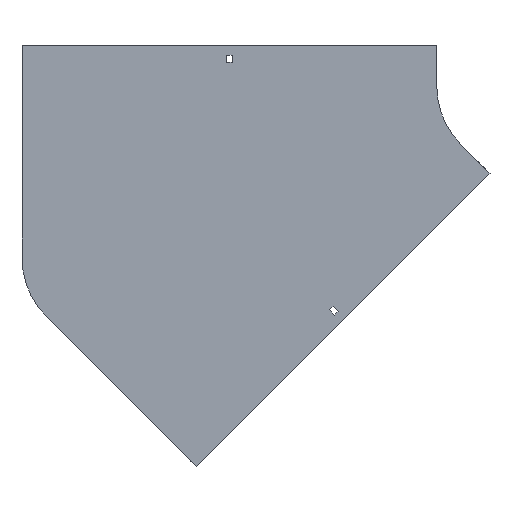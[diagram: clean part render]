
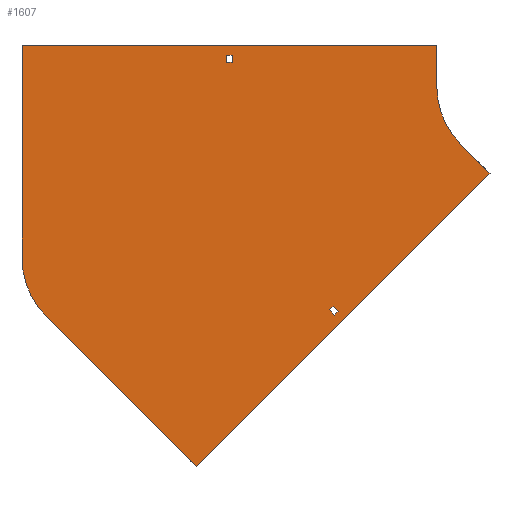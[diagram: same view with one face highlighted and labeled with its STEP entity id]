
A CAD part, front view. The second image highlights one B-rep face of the part: STEP entity #1607.
In plain terms, the highlighted planar face has unit normal (0, -1, 0).
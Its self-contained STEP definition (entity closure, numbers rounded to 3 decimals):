
#6 = EDGE_CURVE ( 'NONE', #405, #908, #889, .T. ) ;
#23 = CARTESIAN_POINT ( 'NONE',  ( -391.737, 0., -462.448 ) ) ;
#27 = VERTEX_POINT ( 'NONE', #111 ) ;
#48 = DIRECTION ( 'NONE',  ( 1., 0., 0. ) ) ;
#64 = PLANE ( 'NONE',  #1312 ) ;
#67 = EDGE_CURVE ( 'NONE', #1908, #564, #1004, .T. ) ;
#68 = CARTESIAN_POINT ( 'NONE',  ( -230.694, 0., -271.706 ) ) ;
#92 = VECTOR ( 'NONE', #165, 1000. ) ;
#98 = EDGE_CURVE ( 'NONE', #1442, #1381, #1130, .T. ) ;
#101 = ORIENTED_EDGE ( 'NONE', *, *, #674, .T. ) ;
#111 = CARTESIAN_POINT ( 'NONE',  ( -348.75, 0., 29. ) ) ;
#132 = DIRECTION ( 'NONE',  ( 0., 0., 1. ) ) ;
#136 = CARTESIAN_POINT ( 'NONE',  ( -355.25, 0., 29. ) ) ;
#139 = VECTOR ( 'NONE', #1470, 1000. ) ;
#143 = CARTESIAN_POINT ( 'NONE',  ( -230.694, 0., -271.706 ) ) ;
#156 = DIRECTION ( 'NONE',  ( 0., -1., 0. ) ) ;
#165 = DIRECTION ( 'NONE',  ( -0.707, 0., 0.707 ) ) ;
#171 = DIRECTION ( 'NONE',  ( -1., 0., 0. ) ) ;
#185 = DIRECTION ( 'NONE',  ( 0., -1., 0. ) ) ;
#190 = VECTOR ( 'NONE', #1082, 1000. ) ;
#221 = ORIENTED_EDGE ( 'NONE', *, *, #358, .F. ) ;
#234 = DIRECTION ( 'NONE',  ( 1., 0., 0. ) ) ;
#236 = VERTEX_POINT ( 'NONE', #23 ) ;
#254 = CARTESIAN_POINT ( 'NONE',  ( -604., 0., 50. ) ) ;
#275 = VECTOR ( 'NONE', #578, 1000. ) ;
#276 = LINE ( 'NONE', #378, #1129 ) ;
#277 = DIRECTION ( 'NONE',  ( 0., 1., 0. ) ) ;
#318 = CARTESIAN_POINT ( 'NONE',  ( -219.733, 0., -273.474 ) ) ;
#347 = FACE_OUTER_BOUND ( 'NONE', #500, .T. ) ;
#358 = EDGE_CURVE ( 'NONE', #1294, #405, #1940, .T. ) ;
#359 = CARTESIAN_POINT ( 'NONE',  ( -348.75, 0., 29. ) ) ;
#378 = CARTESIAN_POINT ( 'NONE',  ( -355.25, 0., 29. ) ) ;
#385 = VERTEX_POINT ( 'NONE', #1184 ) ;
#397 = EDGE_CURVE ( 'NONE', #1697, #1866, #1600, .T. ) ;
#405 = VERTEX_POINT ( 'NONE', #1304 ) ;
#408 = EDGE_LOOP ( 'NONE', ( #1317, #972, #1412, #221 ) ) ;
#413 = LINE ( 'NONE', #1635, #275 ) ;
#453 = VECTOR ( 'NONE', #827, 1000. ) ;
#459 = LINE ( 'NONE', #604, #190 ) ;
#500 = EDGE_LOOP ( 'NONE', ( #1749, #950, #825, #879, #617, #1694, #1657, #1005 ) ) ;
#532 = ORIENTED_EDGE ( 'NONE', *, *, #1096, .T. ) ;
#537 = VERTEX_POINT ( 'NONE', #653 ) ;
#561 = CARTESIAN_POINT ( 'NONE',  ( -355.25, 0., 38. ) ) ;
#564 = VERTEX_POINT ( 'NONE', #1475 ) ;
#578 = DIRECTION ( 'NONE',  ( -0.707, 0., -0.707 ) ) ;
#582 = LINE ( 'NONE', #1189, #1729 ) ;
#591 = AXIS2_PLACEMENT_3D ( 'NONE', #1837, #156, #1655 ) ;
#604 = CARTESIAN_POINT ( 'NONE',  ( -224.33, 0., -278.07 ) ) ;
#614 = CARTESIAN_POINT ( 'NONE',  ( -355.25, 0., 29. ) ) ;
#617 = ORIENTED_EDGE ( 'NONE', *, *, #1261, .F. ) ;
#651 = CARTESIAN_POINT ( 'NONE',  ( -100., 0., 50. ) ) ;
#653 = CARTESIAN_POINT ( 'NONE',  ( -224.33, 0., -278.07 ) ) ;
#660 = DIRECTION ( 'NONE',  ( 0.707, 0., -0.707 ) ) ;
#669 = CARTESIAN_POINT ( 'NONE',  ( 0., 0., 0. ) ) ;
#674 = EDGE_CURVE ( 'NONE', #954, #1908, #276, .T. ) ;
#708 = DIRECTION ( 'NONE',  ( -0.707, 0., 0.707 ) ) ;
#726 = EDGE_CURVE ( 'NONE', #1381, #1487, #779, .T. ) ;
#739 = DIRECTION ( 'NONE',  ( -0.707, 0., -0.707 ) ) ;
#779 = CIRCLE ( 'NONE', #591, 100. ) ;
#825 = ORIENTED_EDGE ( 'NONE', *, *, #397, .F. ) ;
#827 = DIRECTION ( 'NONE',  ( 0., 0., -1. ) ) ;
#870 = VECTOR ( 'NONE', #171, 1000. ) ;
#874 = LINE ( 'NONE', #1946, #1028 ) ;
#879 = ORIENTED_EDGE ( 'NONE', *, *, #1597, .F. ) ;
#889 = LINE ( 'NONE', #143, #1339 ) ;
#908 = VERTEX_POINT ( 'NONE', #1105 ) ;
#927 = DIRECTION ( 'NONE',  ( 0., 0., -1. ) ) ;
#950 = ORIENTED_EDGE ( 'NONE', *, *, #994, .F. ) ;
#954 = VERTEX_POINT ( 'NONE', #136 ) ;
#972 = ORIENTED_EDGE ( 'NONE', *, *, #1469, .F. ) ;
#994 = EDGE_CURVE ( 'NONE', #1866, #1232, #582, .T. ) ;
#1004 = LINE ( 'NONE', #1299, #1273 ) ;
#1005 = ORIENTED_EDGE ( 'NONE', *, *, #98, .F. ) ;
#1028 = VECTOR ( 'NONE', #1182, 1000. ) ;
#1033 = EDGE_LOOP ( 'NONE', ( #101, #1160, #1336, #532 ) ) ;
#1045 = LINE ( 'NONE', #359, #453 ) ;
#1055 = CARTESIAN_POINT ( 'NONE',  ( -391.737, 0., -462.448 ) ) ;
#1082 = DIRECTION ( 'NONE',  ( 0.707, 0., 0.707 ) ) ;
#1096 = EDGE_CURVE ( 'NONE', #27, #954, #1817, .T. ) ;
#1105 = CARTESIAN_POINT ( 'NONE',  ( -230.694, 0., -271.706 ) ) ;
#1128 = CARTESIAN_POINT ( 'NONE',  ( -604., 0., 50. ) ) ;
#1129 = VECTOR ( 'NONE', #1288, 1000. ) ;
#1130 = LINE ( 'NONE', #1308, #139 ) ;
#1140 = DIRECTION ( 'NONE',  ( 0., 0., 1. ) ) ;
#1160 = ORIENTED_EDGE ( 'NONE', *, *, #67, .T. ) ;
#1182 = DIRECTION ( 'NONE',  ( 0.707, 0., -0.707 ) ) ;
#1184 = CARTESIAN_POINT ( 'NONE',  ( -35.355, 0., -106.066 ) ) ;
#1189 = CARTESIAN_POINT ( 'NONE',  ( -604., 0., -208.764 ) ) ;
#1194 = EDGE_CURVE ( 'NONE', #1232, #1442, #1405, .T. ) ;
#1204 = LINE ( 'NONE', #1055, #92 ) ;
#1232 = VERTEX_POINT ( 'NONE', #254 ) ;
#1246 = AXIS2_PLACEMENT_3D ( 'NONE', #1476, #277, #132 ) ;
#1261 = EDGE_CURVE ( 'NONE', #385, #236, #413, .T. ) ;
#1265 = CARTESIAN_POINT ( 'NONE',  ( -70.711, 0., -70.711 ) ) ;
#1273 = VECTOR ( 'NONE', #234, 1000. ) ;
#1279 = CARTESIAN_POINT ( 'NONE',  ( -604., 0., -208.764 ) ) ;
#1288 = DIRECTION ( 'NONE',  ( 0., 0., 1. ) ) ;
#1294 = VERTEX_POINT ( 'NONE', #318 ) ;
#1299 = CARTESIAN_POINT ( 'NONE',  ( -355.25, 0., 38. ) ) ;
#1304 = CARTESIAN_POINT ( 'NONE',  ( -226.097, 0., -267.11 ) ) ;
#1308 = CARTESIAN_POINT ( 'NONE',  ( -100., 0., 50. ) ) ;
#1312 = AXIS2_PLACEMENT_3D ( 'NONE', #669, #185, #927 ) ;
#1317 = ORIENTED_EDGE ( 'NONE', *, *, #1345, .F. ) ;
#1336 = ORIENTED_EDGE ( 'NONE', *, *, #1396, .T. ) ;
#1339 = VECTOR ( 'NONE', #739, 1000. ) ;
#1345 = EDGE_CURVE ( 'NONE', #537, #1294, #459, .T. ) ;
#1378 = CARTESIAN_POINT ( 'NONE',  ( -574.711, 0., -279.474 ) ) ;
#1381 = VERTEX_POINT ( 'NONE', #1542 ) ;
#1396 = EDGE_CURVE ( 'NONE', #564, #27, #1045, .T. ) ;
#1405 = LINE ( 'NONE', #1128, #1799 ) ;
#1412 = ORIENTED_EDGE ( 'NONE', *, *, #6, .F. ) ;
#1442 = VERTEX_POINT ( 'NONE', #651 ) ;
#1451 = VECTOR ( 'NONE', #660, 1000. ) ;
#1469 = EDGE_CURVE ( 'NONE', #908, #537, #1727, .T. ) ;
#1470 = DIRECTION ( 'NONE',  ( 0., 0., -1. ) ) ;
#1475 = CARTESIAN_POINT ( 'NONE',  ( -348.75, 0., 38. ) ) ;
#1476 = CARTESIAN_POINT ( 'NONE',  ( -504., 0., -208.764 ) ) ;
#1487 = VERTEX_POINT ( 'NONE', #1265 ) ;
#1538 = EDGE_CURVE ( 'NONE', #1487, #385, #874, .T. ) ;
#1542 = CARTESIAN_POINT ( 'NONE',  ( -100., 0., 0. ) ) ;
#1567 = FACE_BOUND ( 'NONE', #408, .T. ) ;
#1597 = EDGE_CURVE ( 'NONE', #236, #1697, #1204, .T. ) ;
#1600 = CIRCLE ( 'NONE', #1246, 100. ) ;
#1607 = ADVANCED_FACE ( 'NONE', ( #1844, #347, #1567 ), #64, .T. ) ;
#1635 = CARTESIAN_POINT ( 'NONE',  ( -35.355, 0., -106.066 ) ) ;
#1655 = DIRECTION ( 'NONE',  ( 0., 0., -1. ) ) ;
#1656 = CARTESIAN_POINT ( 'NONE',  ( -226.097, 0., -267.11 ) ) ;
#1657 = ORIENTED_EDGE ( 'NONE', *, *, #726, .F. ) ;
#1694 = ORIENTED_EDGE ( 'NONE', *, *, #1538, .F. ) ;
#1697 = VERTEX_POINT ( 'NONE', #1378 ) ;
#1727 = LINE ( 'NONE', #68, #1451 ) ;
#1729 = VECTOR ( 'NONE', #1140, 1000. ) ;
#1749 = ORIENTED_EDGE ( 'NONE', *, *, #1194, .F. ) ;
#1799 = VECTOR ( 'NONE', #48, 1000. ) ;
#1817 = LINE ( 'NONE', #614, #870 ) ;
#1837 = CARTESIAN_POINT ( 'NONE',  ( 0., 0., 0. ) ) ;
#1844 = FACE_BOUND ( 'NONE', #1033, .T. ) ;
#1858 = VECTOR ( 'NONE', #708, 1000. ) ;
#1866 = VERTEX_POINT ( 'NONE', #1279 ) ;
#1908 = VERTEX_POINT ( 'NONE', #561 ) ;
#1940 = LINE ( 'NONE', #1656, #1858 ) ;
#1946 = CARTESIAN_POINT ( 'NONE',  ( -70.711, 0., -70.711 ) ) ;
